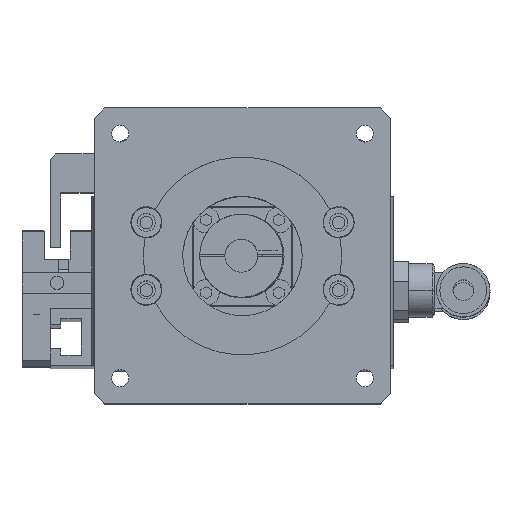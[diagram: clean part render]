
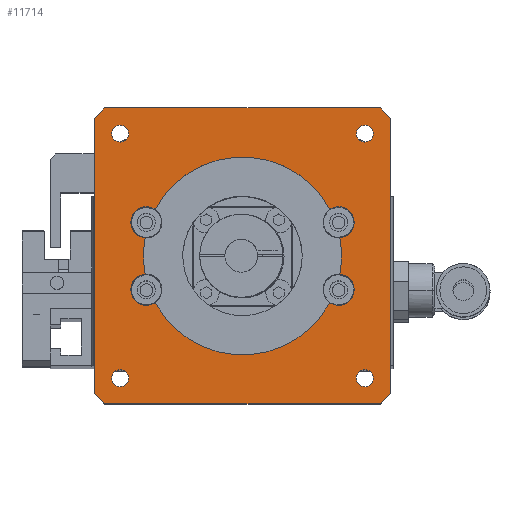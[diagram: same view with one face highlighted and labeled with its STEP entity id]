
A CAD part, top view. The second image highlights one B-rep face of the part: STEP entity #11714.
In plain terms, the highlighted planar face has unit normal (0, 0, 1).
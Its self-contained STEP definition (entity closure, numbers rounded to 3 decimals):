
#11499=CARTESIAN_POINT('',(-4.5,-11.,8.0));
#11500=VERTEX_POINT('',#11499);
#11501=CARTESIAN_POINT('',(-6.5,-9.,8.0));
#11502=VERTEX_POINT('',#11501);
#11503=CARTESIAN_POINT('',(-4.5,-11.,8.0));
#11504=DIRECTION('',(-0.707,0.707,0.0));
#11505=VECTOR('',#11504,2.828);
#11506=LINE('',#11503,#11505);
#11507=EDGE_CURVE('',#11500,#11502,#11506,.T.);
#11534=CARTESIAN_POINT('',(22.,17.5,8.0));
#11535=DIRECTION('',(0.0,0.0,1.0));
#11536=DIRECTION('',(1.0,0.0,0.0));
#11537=AXIS2_PLACEMENT_3D('',#11534,#11535,#11536);
#11538=PLANE('',#11537);
#11539=ORIENTED_EDGE('',*,*,#11507,.F.);
#11540=CARTESIAN_POINT('',(48.5,-11.,8.0));
#11541=VERTEX_POINT('',#11540);
#11542=CARTESIAN_POINT('',(48.5,-11.,8.0));
#11543=DIRECTION('',(-1.0,0.0,0.0));
#11544=VECTOR('',#11543,53.);
#11545=LINE('',#11542,#11544);
#11546=EDGE_CURVE('',#11541,#11500,#11545,.T.);
#11547=ORIENTED_EDGE('',*,*,#11546,.F.);
#11548=CARTESIAN_POINT('',(50.5,-9.,8.0));
#11549=VERTEX_POINT('',#11548);
#11550=CARTESIAN_POINT('',(50.5,-9.,8.0));
#11551=DIRECTION('',(-0.707,-0.707,0.0));
#11552=VECTOR('',#11551,2.828);
#11553=LINE('',#11550,#11552);
#11554=EDGE_CURVE('',#11549,#11541,#11553,.T.);
#11555=ORIENTED_EDGE('',*,*,#11554,.F.);
#11556=CARTESIAN_POINT('',(50.5,44.0,8.0));
#11557=VERTEX_POINT('',#11556);
#11558=CARTESIAN_POINT('',(50.5,44.0,8.0));
#11559=DIRECTION('',(0.0,-1.0,0.0));
#11560=VECTOR('',#11559,53.0);
#11561=LINE('',#11558,#11560);
#11562=EDGE_CURVE('',#11557,#11549,#11561,.T.);
#11563=ORIENTED_EDGE('',*,*,#11562,.F.);
#11564=CARTESIAN_POINT('',(48.5,46.,8.0));
#11565=VERTEX_POINT('',#11564);
#11566=CARTESIAN_POINT('',(48.5,46.,8.0));
#11567=DIRECTION('',(0.707,-0.707,0.0));
#11568=VECTOR('',#11567,2.828);
#11569=LINE('',#11566,#11568);
#11570=EDGE_CURVE('',#11565,#11557,#11569,.T.);
#11571=ORIENTED_EDGE('',*,*,#11570,.F.);
#11572=CARTESIAN_POINT('',(-4.5,46.,8.0));
#11573=VERTEX_POINT('',#11572);
#11574=CARTESIAN_POINT('',(-4.5,46.,8.0));
#11575=DIRECTION('',(1.0,0.0,0.0));
#11576=VECTOR('',#11575,53.);
#11577=LINE('',#11574,#11576);
#11578=EDGE_CURVE('',#11573,#11565,#11577,.T.);
#11579=ORIENTED_EDGE('',*,*,#11578,.F.);
#11580=CARTESIAN_POINT('',(-6.5,44.0,8.0));
#11581=VERTEX_POINT('',#11580);
#11582=CARTESIAN_POINT('',(-6.5,44.0,8.0));
#11583=DIRECTION('',(0.707,0.707,0.0));
#11584=VECTOR('',#11583,2.828);
#11585=LINE('',#11582,#11584);
#11586=EDGE_CURVE('',#11581,#11573,#11585,.T.);
#11587=ORIENTED_EDGE('',*,*,#11586,.F.);
#11588=CARTESIAN_POINT('',(-6.5,-9.,8.0));
#11589=DIRECTION('',(0.0,1.0,0.0));
#11590=VECTOR('',#11589,53.0);
#11591=LINE('',#11588,#11590);
#11592=EDGE_CURVE('',#11502,#11581,#11591,.T.);
#11593=ORIENTED_EDGE('',*,*,#11592,.F.);
#11594=EDGE_LOOP('',(#11539,#11547,#11555,#11563,#11571,#11579,#11587,#11593));
#11595=FACE_OUTER_BOUND('',#11594,.T.);
#11596=CARTESIAN_POINT('',(0.071,-6.05,8.0));
#11597=VERTEX_POINT('',#11596);
#11598=CARTESIAN_POINT('',(-1.55,-6.05,8.));
#11599=DIRECTION('',(0.0,0.0,-1.0));
#11600=DIRECTION('',(1.0,0.0,0.0));
#11601=AXIS2_PLACEMENT_3D('',#11598,#11599,#11600);
#11602=CIRCLE('',#11601,1.621);
#11603=EDGE_CURVE('',#11597,#11597,#11602,.T.);
#11604=ORIENTED_EDGE('',*,*,#11603,.T.);
#11605=EDGE_LOOP('',(#11604));
#11606=FACE_BOUND('',#11605,.T.);
#11607=CARTESIAN_POINT('',(47.171,41.05,8.0));
#11608=VERTEX_POINT('',#11607);
#11609=CARTESIAN_POINT('',(45.55,41.05,8.));
#11610=DIRECTION('',(0.0,0.0,-1.0));
#11611=DIRECTION('',(1.0,0.0,0.0));
#11612=AXIS2_PLACEMENT_3D('',#11609,#11610,#11611);
#11613=CIRCLE('',#11612,1.621);
#11614=EDGE_CURVE('',#11608,#11608,#11613,.T.);
#11615=ORIENTED_EDGE('',*,*,#11614,.T.);
#11616=EDGE_LOOP('',(#11615));
#11617=FACE_BOUND('',#11616,.T.);
#11618=CARTESIAN_POINT('',(47.171,-6.05,8.0));
#11619=VERTEX_POINT('',#11618);
#11620=CARTESIAN_POINT('',(45.55,-6.05,8.));
#11621=DIRECTION('',(0.0,0.0,-1.0));
#11622=DIRECTION('',(1.0,0.0,0.0));
#11623=AXIS2_PLACEMENT_3D('',#11620,#11621,#11622);
#11624=CIRCLE('',#11623,1.621);
#11625=EDGE_CURVE('',#11619,#11619,#11624,.T.);
#11626=ORIENTED_EDGE('',*,*,#11625,.T.);
#11627=EDGE_LOOP('',(#11626));
#11628=FACE_BOUND('',#11627,.T.);
#11629=CARTESIAN_POINT('',(0.071,41.05,8.0));
#11630=VERTEX_POINT('',#11629);
#11631=CARTESIAN_POINT('',(-1.55,41.05,8.));
#11632=DIRECTION('',(0.0,0.0,-1.0));
#11633=DIRECTION('',(1.0,0.0,0.0));
#11634=AXIS2_PLACEMENT_3D('',#11631,#11632,#11633);
#11635=CIRCLE('',#11634,1.621);
#11636=EDGE_CURVE('',#11630,#11630,#11635,.T.);
#11637=ORIENTED_EDGE('',*,*,#11636,.T.);
#11638=EDGE_LOOP('',(#11637));
#11639=FACE_BOUND('',#11638,.T.);
#11640=CARTESIAN_POINT('',(38.804,26.474,8.));
#11641=VERTEX_POINT('',#11640);
#11642=CARTESIAN_POINT('',(40.724,21.008,8.));
#11643=VERTEX_POINT('',#11642);
#11644=CARTESIAN_POINT('',(40.5,24.,8.0));
#11645=DIRECTION('',(0.0,0.0,-1.0));
#11646=DIRECTION('',(1.0,0.0,0.0));
#11647=AXIS2_PLACEMENT_3D('',#11644,#11645,#11646);
#11648=CIRCLE('',#11647,3.);
#11649=EDGE_CURVE('',#11641,#11643,#11648,.T.);
#11650=ORIENTED_EDGE('',*,*,#11649,.T.);
#11651=CARTESIAN_POINT('',(40.724,13.992,8.));
#11652=VERTEX_POINT('',#11651);
#11653=CARTESIAN_POINT('',(22.0,17.5,8.0));
#11654=DIRECTION('',(0.0,0.0,-1.0));
#11655=DIRECTION('',(1.0,0.0,0.0));
#11656=AXIS2_PLACEMENT_3D('',#11653,#11654,#11655);
#11657=CIRCLE('',#11656,19.05);
#11658=EDGE_CURVE('',#11643,#11652,#11657,.T.);
#11659=ORIENTED_EDGE('',*,*,#11658,.T.);
#11660=CARTESIAN_POINT('',(38.804,8.526,8.));
#11661=VERTEX_POINT('',#11660);
#11662=CARTESIAN_POINT('',(40.5,11.,8.0));
#11663=DIRECTION('',(0.0,0.0,-1.0));
#11664=DIRECTION('',(1.0,0.0,0.0));
#11665=AXIS2_PLACEMENT_3D('',#11662,#11663,#11664);
#11666=CIRCLE('',#11665,3.);
#11667=EDGE_CURVE('',#11652,#11661,#11666,.T.);
#11668=ORIENTED_EDGE('',*,*,#11667,.T.);
#11669=CARTESIAN_POINT('',(5.196,8.526,8.0));
#11670=VERTEX_POINT('',#11669);
#11671=CARTESIAN_POINT('',(22.0,17.5,8.0));
#11672=DIRECTION('',(0.0,0.0,-1.0));
#11673=DIRECTION('',(1.0,0.0,0.0));
#11674=AXIS2_PLACEMENT_3D('',#11671,#11672,#11673);
#11675=CIRCLE('',#11674,19.05);
#11676=EDGE_CURVE('',#11661,#11670,#11675,.T.);
#11677=ORIENTED_EDGE('',*,*,#11676,.T.);
#11678=CARTESIAN_POINT('',(3.276,13.992,8.0));
#11679=VERTEX_POINT('',#11678);
#11680=CARTESIAN_POINT('',(3.5,11.,8.0));
#11681=DIRECTION('',(0.0,0.0,-1.0));
#11682=DIRECTION('',(1.0,0.0,0.0));
#11683=AXIS2_PLACEMENT_3D('',#11680,#11681,#11682);
#11684=CIRCLE('',#11683,3.);
#11685=EDGE_CURVE('',#11670,#11679,#11684,.T.);
#11686=ORIENTED_EDGE('',*,*,#11685,.T.);
#11687=CARTESIAN_POINT('',(3.276,21.008,8.));
#11688=VERTEX_POINT('',#11687);
#11689=CARTESIAN_POINT('',(22.0,17.5,8.0));
#11690=DIRECTION('',(0.0,0.0,-1.0));
#11691=DIRECTION('',(1.0,0.0,0.0));
#11692=AXIS2_PLACEMENT_3D('',#11689,#11690,#11691);
#11693=CIRCLE('',#11692,19.05);
#11694=EDGE_CURVE('',#11679,#11688,#11693,.T.);
#11695=ORIENTED_EDGE('',*,*,#11694,.T.);
#11696=CARTESIAN_POINT('',(5.196,26.474,8.));
#11697=VERTEX_POINT('',#11696);
#11698=CARTESIAN_POINT('',(3.5,24.,8.0));
#11699=DIRECTION('',(0.0,0.0,-1.0));
#11700=DIRECTION('',(1.0,0.0,0.0));
#11701=AXIS2_PLACEMENT_3D('',#11698,#11699,#11700);
#11702=CIRCLE('',#11701,3.);
#11703=EDGE_CURVE('',#11688,#11697,#11702,.T.);
#11704=ORIENTED_EDGE('',*,*,#11703,.T.);
#11705=CARTESIAN_POINT('',(22.0,17.5,8.0));
#11706=DIRECTION('',(0.0,0.0,-1.0));
#11707=DIRECTION('',(1.0,0.0,0.0));
#11708=AXIS2_PLACEMENT_3D('',#11705,#11706,#11707);
#11709=CIRCLE('',#11708,19.05);
#11710=EDGE_CURVE('',#11697,#11641,#11709,.T.);
#11711=ORIENTED_EDGE('',*,*,#11710,.T.);
#11712=EDGE_LOOP('',(#11650,#11659,#11668,#11677,#11686,#11695,#11704,#11711));
#11713=FACE_BOUND('',#11712,.T.);
#11714=ADVANCED_FACE('',(#11595,#11606,#11617,#11628,#11639,#11713),#11538,.T.);
